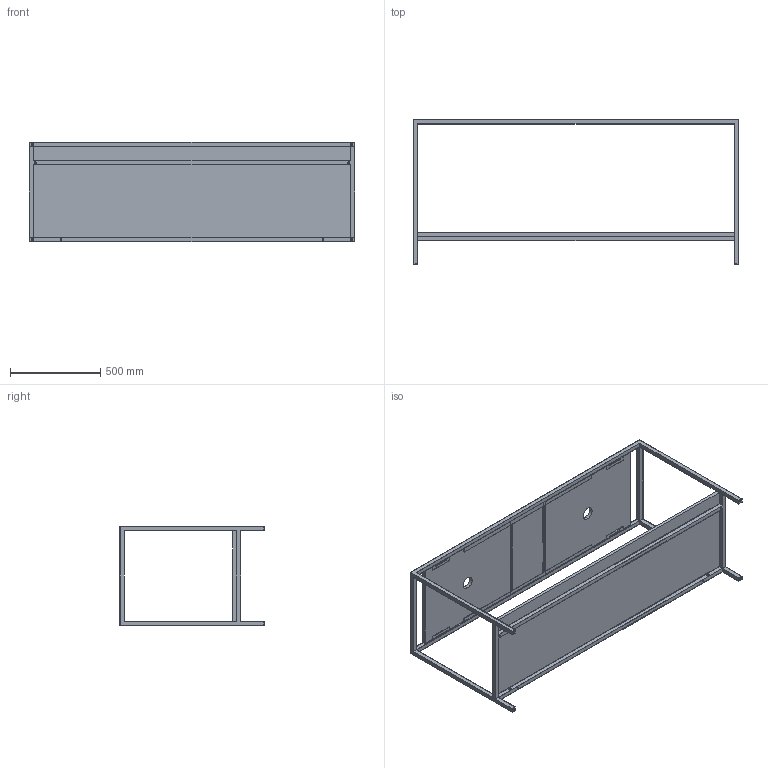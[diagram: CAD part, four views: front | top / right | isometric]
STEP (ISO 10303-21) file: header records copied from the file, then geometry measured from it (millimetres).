
FILE_DESCRIPTION (( 'STEP AP203' ), '1' );
FILE_NAME ('STP 180 01.STEP', '2019-02-04T14:34:28', ( '' ), ( '' ), 'SwSTEP 2.0', 'SolidWorks 2019', '' );
FILE_SCHEMA (( 'CONFIG_CONTROL_DESIGN' ));
Length unit declared in the file: millimetre
Products named in the file (5): PIANO180; struttura STAND180; STP 180 01; PIANETTO; PIANO MISURA 67
Assembly tree (5 placements, depth 2):
  STP 180 01
    struttura STAND180
    PIANO MISURA 67  x2
    PIANETTO
    PIANO180
Bounding box: 1800 x 800 x 550 mm (x, y, z)
Volume: 34054321.6 mm3; surface area: 6049440.6 mm2
Topology: 5 solids, 5 shells, 225 faces, 592 edges, 368 vertices
Faces by surface type: plane 141, cylinder 68, torus 16
Entity records: 6743 total; most frequent: CARTESIAN_POINT 1067, ORIENTED_EDGE 1060, DIRECTION 1056, EDGE_CURVE 530, VECTOR 414, LINE 414, VERTEX_POINT 332, AXIS2_PLACEMENT_3D 321
